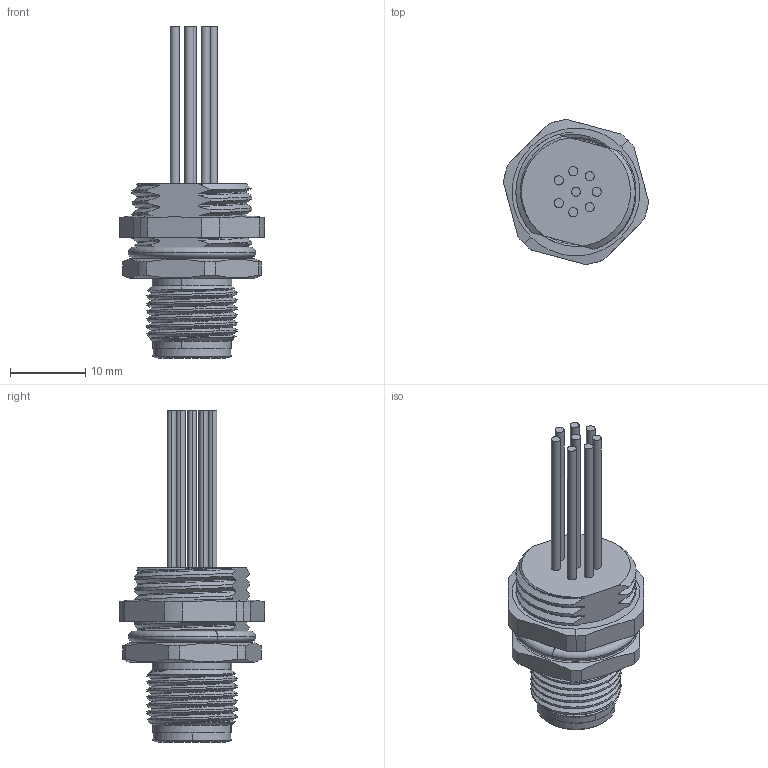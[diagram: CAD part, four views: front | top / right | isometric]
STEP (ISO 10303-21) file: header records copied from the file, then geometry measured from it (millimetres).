
FILE_DESCRIPTION (( 'STEP AP203' ), '1' );
FILE_NAME ('64SB21-XXX.STEP', '2023-10-27T08:20:46', ( 'ADMIN' ), ( '' ), 'SwSTEP 2.0', 'SolidWorks 2016', '' );
FILE_SCHEMA (( 'CONFIG_CONTROL_DESIGN' ));
Length unit declared in the file: millimetre
Products named in the file (1): 64SB21-XXX
Bounding box: 19.33 x 19.33 x 44.2 mm (x, y, z)
Volume: 3445.6 mm3; surface area: 4509.3 mm2
Topology: 3 solids, 33 shells, 489 faces, 1242 edges, 824 vertices
Faces by surface type: cylinder 158, cone 146, plane 110, bspline 71, torus 4
Entity records: 30798 total; most frequent: CARTESIAN_POINT 19385, ORIENTED_EDGE 2484, DIRECTION 2189, EDGE_CURVE 1242, AXIS2_PLACEMENT_3D 925, VERTEX_POINT 824, EDGE_LOOP 532, CIRCLE 506
